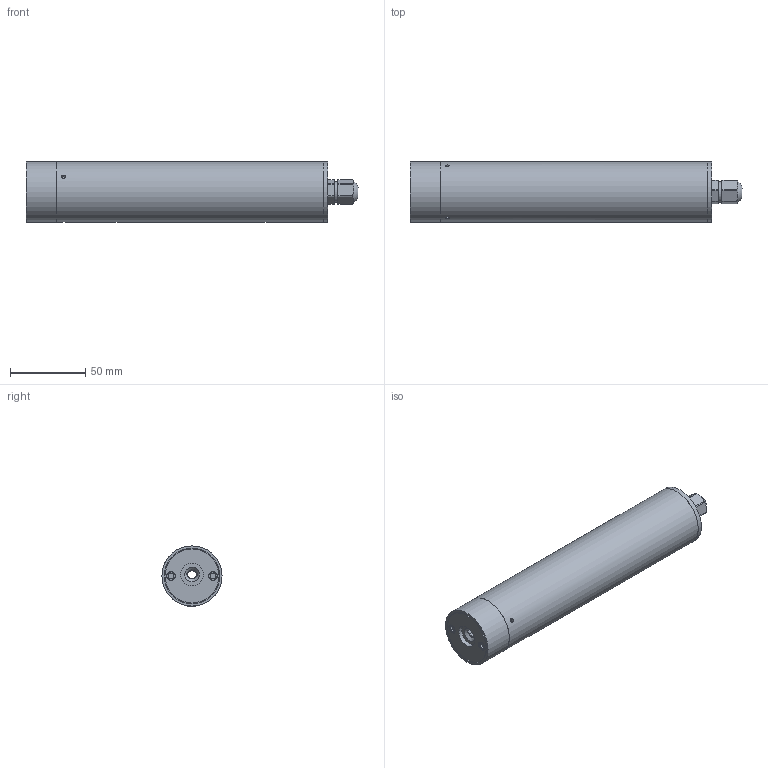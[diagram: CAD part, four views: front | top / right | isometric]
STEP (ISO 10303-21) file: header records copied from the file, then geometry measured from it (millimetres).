
FILE_DESCRIPTION( ( 'Unknown' ), '1' );
FILE_NAME( 'O:/Projekte/Geräte/ZR_Standartlaser_Vers_F/F&E/Mechanik/Step/ZR.stp', 'Unknown', ( 'Unknown' ), ( 'Unknown' ), 'PSStep 16.0.42', 'Unknown', ' ' );
FILE_SCHEMA( ( 'AUTOMOTIVE_DESIGN { 1 0 10303 214 1 1 1 1 }' ) );
Length unit declared in the file: millimetre
Products named in the file (9): Assem1; 100034201_ZR_Kopfstueck_Vers_H; 0100342_Stablinsenhalter_7_Asym_Vers_C; 0613162_Zyl_Inbus_M3x16_DIN_912_verzinkt_selbstsichernd; 0613162_Zyl_Inbus_M3x16_DIN_912_verzinkt_selbstsichernd-oa0; 0100301_Aussenrohr_40x178_Vers_D; 0100350_Endkappe_Vers_C; 0623060_SenkInbus_M3x6_DIN_7991; 3500091_Kabelverschraubung_M12x1,5
Assembly tree (8 placements, depth 2):
  Assem1
    100034201_ZR_Kopfstueck_Vers_H
    0100342_Stablinsenhalter_7_Asym_Vers_C
    0613162_Zyl_Inbus_M3x16_DIN_912_verzinkt_selbstsichernd
    0613162_Zyl_Inbus_M3x16_DIN_912_verzinkt_selbstsichernd-oa0
    0100301_Aussenrohr_40x178_Vers_D
    0100350_Endkappe_Vers_C
    0623060_SenkInbus_M3x6_DIN_7991
    3500091_Kabelverschraubung_M12x1,5
Bounding box: 221.18 x 40 x 40.01 mm (x, y, z)
Volume: 85323.4 mm3; surface area: 65622.6 mm2
Topology: 8 solids, 8 shells, 161 faces, 378 edges, 251 vertices
Faces by surface type: plane 78, cylinder 67, cone 12, torus 3, sphere 1
Full cylindrical faces by diameter (mm): 2.2 x1, 2.5 x8, 3 x3, 3.2 x4, 4 x2, 5.5 x2, 5.695 x1, 6 x3, 6.5 x2, 7 x1, 7.2 x1, 10.8 x1, 11.789 x1, 14 x1, 15 x2, 19 x1, 28 x1, 32.4 x2, 33.5 x1, 35.7 x5, 36 x2, 36.1 x2, 37 x1, 40 x3
Entity records: 6268 total; most frequent: CARTESIAN_POINT 1488, DIRECTION 718, ORIENTED_EDGE 552, AXIS2_PLACEMENT_3D 305, EDGE_LOOP 276, EDGE_CURVE 276, VERTEX_POINT 223, FACE_OUTER_BOUND 216
